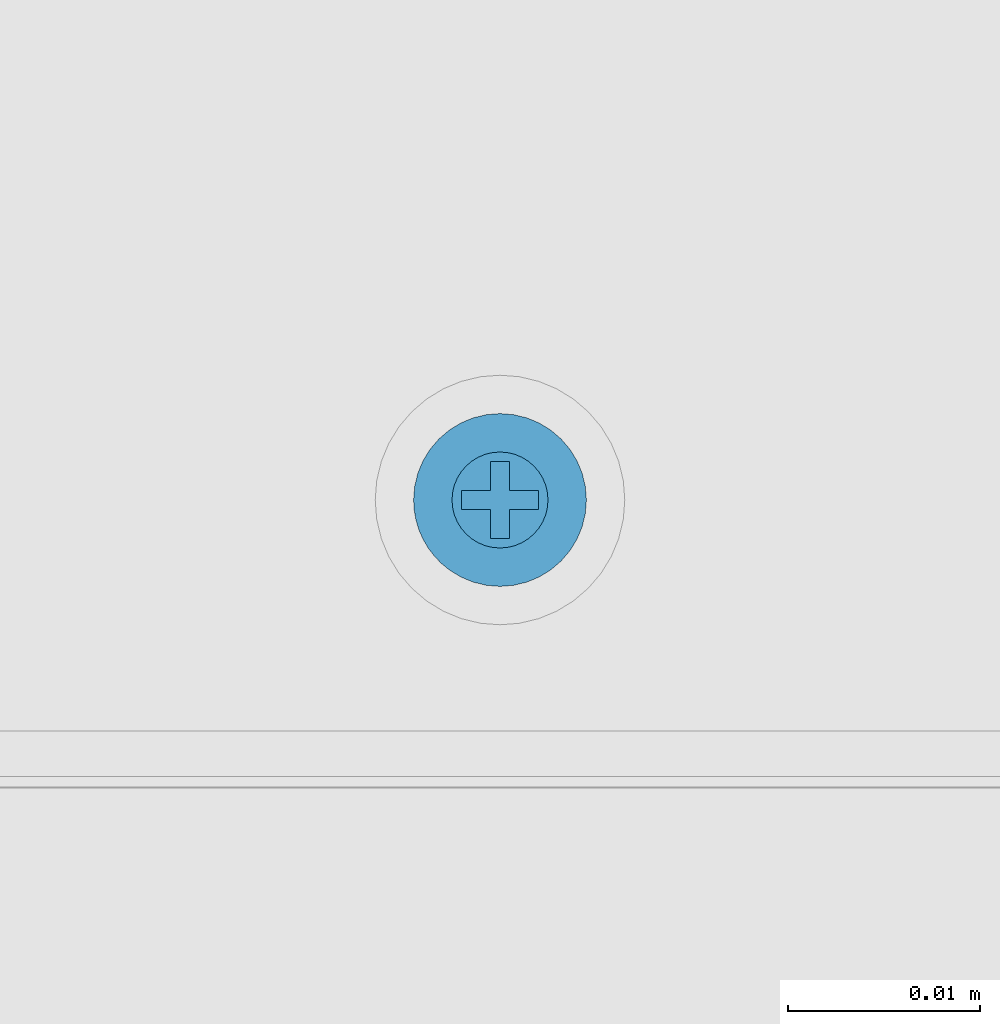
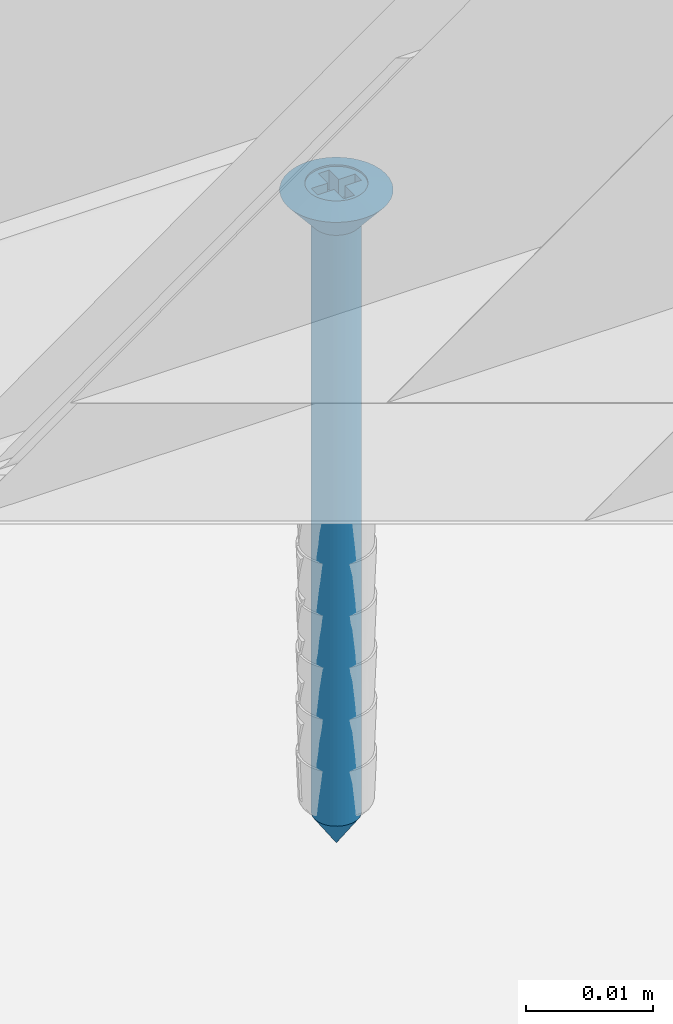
# One storey, part 19 of 47: 1 wall.
"""IFC2X3 building model written with IfcOpenShell, lengths in millimetres."""

from ifc_helpers import new_model, entity, si_unit, converted_unit, direction, frame, origin, origin_with_axes, place, context, project, spatial, faceted_brep, element, save


model = new_model("IFC2X3")

# Units and contexts
model_context = context("Model", 3, precision=1e-05, world=origin(), true_north=direction((0.0, 1.0, 0.0)))
ifc_project = project(units=[si_unit("LENGTHUNIT", "METRE", prefix="MILLI"), si_unit("AREAUNIT", "SQUARE_METRE"), si_unit("VOLUMEUNIT", "CUBIC_METRE"), converted_unit("PLANEANGLEUNIT", "DEGREE", entity("IfcPlaneAngleMeasure", 0.01745), si_unit("PLANEANGLEUNIT", "RADIAN"), dimensions=[0, 0, 0, 0, 0, 0, 0]), si_unit("SOLIDANGLEUNIT", "STERADIAN"), si_unit("MASSUNIT", "GRAM"), si_unit("TIMEUNIT", "SECOND"), si_unit("THERMODYNAMICTEMPERATUREUNIT", "DEGREE_CELSIUS"), si_unit("LUMINOUSINTENSITYUNIT", "LUMEN")], contexts=[model_context])

# Site, building, storey
site_placement = place(None, origin_with_axes())
site = spatial("IfcSite", under=ifc_project, at=site_placement, Name="Default Site", CompositionType="ELEMENT")
building_placement = place(site_placement, origin_with_axes())
building = spatial("IfcBuilding", under=site, at=building_placement, Name="Default Building", CompositionType="ELEMENT")
storey_placement = place(building_placement, origin_with_axes())
storey = spatial("IfcBuildingStorey", under=building, at=storey_placement, Name="Default Building Storey", CompositionType="ELEMENT", Elevation=0.0)

# Wall
wall_placement = place(storey_placement, frame((5924.464255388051, 3419.995432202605, 10.38402578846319), z_axis=(-6.858158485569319e-13, 7.620176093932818e-14, 1.0), x_axis=(-1.64760288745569e-11, 1.0, -7.620176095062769e-14)))
element("IfcWall", 1, at=wall_placement, inside=storey, Name="Kołek rozporowy min. fi 6", context=model_context, shape_type="Brep", body=[
    faceted_brep([(-1438.31414949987, 3453.283223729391, -0.4642567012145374), (-1435.814149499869, 3453.283223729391, -3.464256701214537), (-1435.78952618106, 3452.97035479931, -3.464256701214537), (-1438.258747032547, 3452.57926863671, -0.4642567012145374), (-1435.71626253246, 3452.665189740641, -3.464256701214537), (-1438.093903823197, 3451.892647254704, -0.4642567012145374), (-1435.596162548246, 3452.375242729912, -3.464256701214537), (-1437.823678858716, 3451.240266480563, -0.4642567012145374), (-1435.432183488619, 3452.107653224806, -3.464256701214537), (-1437.454725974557, 3450.638190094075, -0.4642567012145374), (-1435.228363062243, 3451.869010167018, -3.464256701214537), (-1436.996130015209, 3450.101243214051, -0.4642567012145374), (-1434.989720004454, 3451.665189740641, -3.464256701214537), (-1436.459183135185, 3449.642647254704, -0.4642567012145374), (-1434.722130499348, 3451.501210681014, -3.464256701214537), (-1435.857106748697, 3449.273694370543, -0.4642567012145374), (-1434.432183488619, 3451.381110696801, -3.464256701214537), (-1435.204725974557, 3449.003469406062, -0.4642567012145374), (-1434.12701842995, 3451.307847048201, -3.464256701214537), (-1434.51810459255, 3448.838626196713, -0.4642567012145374), (-1433.814149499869, 3451.283223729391, -3.464256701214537), (-1433.814149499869, 3448.783223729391, -0.4642567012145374), (-1433.501280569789, 3451.307847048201, -3.464256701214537), (-1433.110194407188, 3448.838626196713, -0.4642567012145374), (-1433.19611551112, 3451.381110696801, -3.464256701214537), (-1432.423573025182, 3449.003469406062, -0.4642567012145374), (-1432.906168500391, 3451.501210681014, -3.464256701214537), (-1431.771192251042, 3449.273694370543, -0.4642567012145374), (-1432.638578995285, 3451.665189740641, -3.464256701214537), (-1431.169115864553, 3449.642647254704, -0.4642567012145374), (-1432.399935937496, 3451.869010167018, -3.464256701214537), (-1430.63216898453, 3450.101243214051, -0.4642567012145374), (-1432.196115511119, 3452.107653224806, -3.464256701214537), (-1430.173573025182, 3450.638190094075, -0.4642567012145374), (-1432.032136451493, 3452.375242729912, -3.464256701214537), (-1429.804620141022, 3451.240266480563, -0.4642567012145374), (-1431.912036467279, 3452.665189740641, -3.464256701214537), (-1429.534395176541, 3451.892647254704, -0.4642567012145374), (-1431.838772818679, 3453.596092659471, -3.464256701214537), (-1429.369551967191, 3453.987178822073, -0.4642567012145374), (-1429.314149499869, 3453.283223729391, -0.4642567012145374), (-1431.81414949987, 3453.283223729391, -3.464256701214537), (-1429.369551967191, 3452.57926863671, -0.4642567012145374), (-1431.838772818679, 3452.97035479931, -3.464256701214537), (-1431.912036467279, 3453.901257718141, -3.464256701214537), (-1429.534395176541, 3454.673800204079, -0.4642567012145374), (-1432.032136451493, 3454.19120472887, -3.464256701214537), (-1429.804620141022, 3455.326180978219, -0.4642567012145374), (-1432.196115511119, 3454.458794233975, -3.464256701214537), (-1430.173573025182, 3455.928257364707, -0.4642567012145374), (-1432.399935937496, 3454.697437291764, -3.464256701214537), (-1430.63216898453, 3456.465204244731, -0.4642567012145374), (-1432.638578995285, 3454.901257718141, -3.464256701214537), (-1431.169115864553, 3456.923800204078, -0.4642567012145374), (-1432.906168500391, 3455.065236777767, -3.464256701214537), (-1431.771192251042, 3457.292753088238, -0.4642567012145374), (-1433.19611551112, 3455.185336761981, -3.464256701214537), (-1432.423573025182, 3457.562978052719, -0.4642567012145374), (-1433.501280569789, 3455.258600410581, -3.464256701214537), (-1433.110194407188, 3457.727821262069, -0.4642567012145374), (-1433.814149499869, 3455.283223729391, -3.464256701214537), (-1433.814149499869, 3457.783223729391, -0.4642567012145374), (-1434.34306778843, 3457.752031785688, -0.4642567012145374), (-1434.12701842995, 3455.258600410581, -3.464256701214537), (-1434.432183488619, 3455.185336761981, -3.464256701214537), (-1434.864653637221, 3457.658888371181, -0.4642567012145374), (-1435.371676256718, 3457.505084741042, -0.4642567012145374), (-1434.722130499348, 3455.065236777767, -3.464256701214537), (-1435.857106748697, 3457.292753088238, -0.4642567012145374), (-1434.989720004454, 3454.901257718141, -3.464256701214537), (-1435.228363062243, 3454.697437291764, -3.464256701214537), (-1436.314215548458, 3457.024836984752, -0.4642567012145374), (-1436.736665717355, 3456.705050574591, -0.4642567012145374), (-1437.11860079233, 3456.337827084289, -0.4642567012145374), (-1437.454725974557, 3455.928257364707, -0.4642567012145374), (-1435.432183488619, 3454.458794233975, -3.464256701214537), (-1435.596162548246, 3454.19120472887, -3.464256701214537), (-1437.823678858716, 3455.326180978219, -0.4642567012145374), (-1435.71626253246, 3453.901257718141, -3.464256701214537), (-1438.093903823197, 3454.673800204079, -0.4642567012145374), (-1435.78952618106, 3453.596092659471, -3.464256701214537), (-1438.258747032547, 3453.987178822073, -0.4642567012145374), (-1434.205235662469, 3455.752444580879, 0.2007375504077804), (-1433.814149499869, 3455.78322372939, 0.2007375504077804), (-1434.586691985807, 3455.660865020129, 0.2007375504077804), (-1434.949125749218, 3455.510740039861, 0.2007375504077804), (-1435.283612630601, 3455.305766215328, 0.2007375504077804), (-1435.581916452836, 3455.050990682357, 0.2007375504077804), (-1435.836691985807, 3454.752686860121, 0.2007375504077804), (-1436.04166581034, 3454.41819997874, 0.2007375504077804), (-1436.191790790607, 3454.055766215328, 0.2007375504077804), (-1436.283370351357, 3453.674309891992, 0.2007375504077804), (-1436.314149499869, 3453.283223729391, 0.2007375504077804), (-1436.283370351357, 3452.892137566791, 0.2007375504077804), (-1436.191790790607, 3452.510681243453, 0.2007375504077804), (-1436.04166581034, 3452.148247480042, 0.2007375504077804), (-1435.836691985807, 3451.81376059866, 0.200737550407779), (-1435.581916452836, 3451.515456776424, 0.2007375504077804), (-1435.283612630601, 3451.260681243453, 0.2007375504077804), (-1434.949125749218, 3451.05570741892, 0.2007375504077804), (-1434.586691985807, 3450.905582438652, 0.2007375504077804), (-1433.423063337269, 3450.814002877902, 0.2007375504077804), (-1433.814149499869, 3450.783223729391, 0.2007375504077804), (-1434.205235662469, 3450.814002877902, 0.2007375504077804), (-1433.041607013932, 3450.905582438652, 0.2007375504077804), (-1432.67917325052, 3451.05570741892, 0.2007375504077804), (-1432.344686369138, 3451.260681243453, 0.2007375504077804), (-1432.046382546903, 3451.515456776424, 0.2007375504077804), (-1431.791607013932, 3451.81376059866, 0.2007375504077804), (-1431.586633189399, 3452.148247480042, 0.2007375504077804), (-1431.436508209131, 3452.510681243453, 0.2007375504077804), (-1431.344928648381, 3452.892137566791, 0.2007375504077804), (-1431.314149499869, 3453.283223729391, 0.2007375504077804), (-1431.344928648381, 3453.674309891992, 0.2007375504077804), (-1431.436508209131, 3454.055766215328, 0.2007375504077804), (-1431.586633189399, 3454.41819997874, 0.2007375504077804), (-1431.791607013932, 3454.752686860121, 0.2007375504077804), (-1432.046382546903, 3455.050990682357, 0.2007375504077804), (-1432.344686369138, 3455.305766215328, 0.2007375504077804), (-1432.67917325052, 3455.510740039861, 0.2007375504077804), (-1433.041607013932, 3455.660865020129, 0.2007375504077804), (-1433.423063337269, 3455.752444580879, 0.2007375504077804), (-1433.814149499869, 3453.283223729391, -63.46425670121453), (-1435.789526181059, 3452.97035479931, -60.46425670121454), (-1435.814149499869, 3453.283223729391, -60.46425670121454), (-1435.716262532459, 3452.665189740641, -60.46425670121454), (-1435.596162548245, 3452.375242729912, -60.46425670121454), (-1435.432183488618, 3452.107653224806, -60.46425670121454), (-1435.228363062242, 3451.869010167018, -60.46425670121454), (-1434.989720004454, 3451.665189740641, -60.46425670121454), (-1434.722130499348, 3451.501210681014, -60.46425670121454), (-1434.432183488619, 3451.381110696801, -60.46425670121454), (-1434.127018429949, 3451.307847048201, -60.46425670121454), (-1433.814149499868, 3451.283223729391, -60.46425670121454), (-1433.501280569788, 3451.307847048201, -60.46425670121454), (-1433.196115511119, 3451.381110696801, -60.46425670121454), (-1432.90616850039, 3451.501210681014, -60.46425670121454), (-1432.638578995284, 3451.665189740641, -60.46425670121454), (-1432.399935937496, 3451.869010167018, -60.46425670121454), (-1432.196115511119, 3452.107653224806, -60.46425670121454), (-1432.032136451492, 3452.375242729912, -60.46425670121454), (-1431.912036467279, 3452.665189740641, -60.46425670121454), (-1431.838772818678, 3452.97035479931, -60.46425670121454), (-1431.814149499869, 3453.283223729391, -60.46425670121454), (-1431.838772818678, 3453.596092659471, -60.46425670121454), (-1431.912036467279, 3453.901257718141, -60.46425670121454), (-1432.032136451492, 3454.19120472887, -60.46425670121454), (-1432.196115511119, 3454.458794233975, -60.46425670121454), (-1432.399935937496, 3454.697437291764, -60.46425670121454), (-1432.638578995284, 3454.901257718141, -60.46425670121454), (-1432.90616850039, 3455.065236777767, -60.46425670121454), (-1433.196115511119, 3455.185336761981, -60.46425670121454), (-1433.501280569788, 3455.258600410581, -60.46425670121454), (-1433.814149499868, 3455.283223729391, -60.46425670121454), (-1434.127018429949, 3455.258600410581, -60.46425670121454), (-1434.432183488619, 3455.185336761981, -60.46425670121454), (-1434.722130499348, 3455.065236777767, -60.46425670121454), (-1434.989720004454, 3454.901257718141, -60.46425670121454), (-1435.228363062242, 3454.697437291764, -60.46425670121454), (-1435.432183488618, 3454.458794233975, -60.46425670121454), (-1435.596162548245, 3454.19120472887, -60.46425670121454), (-1435.716262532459, 3453.901257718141, -60.46425670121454), (-1435.789526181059, 3453.596092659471, -60.46425670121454), (-1435.814149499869, 3453.783223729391, 0.04999999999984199), (-1436.04166581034, 3454.41819997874, 0.04999999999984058), (-1436.191790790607, 3454.055766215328, 0.04999999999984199), (-1435.814149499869, 3452.783223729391, 0.04999999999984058), (-1434.314149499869, 3453.783223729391, 0.04999999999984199), (-1434.314149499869, 3455.28322372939, 0.04999999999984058), (-1433.314149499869, 3455.28322372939, 0.04999999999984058), (-1433.314149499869, 3453.783223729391, 0.04999999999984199), (-1431.814149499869, 3453.783223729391, 0.04999999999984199), (-1431.814149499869, 3452.783223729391, 0.04999999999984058), (-1433.314149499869, 3452.783223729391, 0.04999999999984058), (-1433.314149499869, 3451.283223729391, 0.04999999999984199), (-1434.314149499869, 3451.283223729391, 0.04999999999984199), (-1434.314149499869, 3452.783223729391, 0.04999999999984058), (-1436.283370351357, 3453.674309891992, 0.04999999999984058), (-1436.314149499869, 3453.283223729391, 0.04999999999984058), (-1436.283370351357, 3452.892137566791, 0.04999999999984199), (-1436.191790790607, 3452.510681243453, 0.04999999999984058), (-1436.04166581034, 3452.148247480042, 0.04999999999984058), (-1435.836691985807, 3451.81376059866, 0.04999999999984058), (-1435.581916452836, 3451.515456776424, 0.04999999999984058), (-1435.283612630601, 3451.260681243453, 0.04999999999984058), (-1434.949125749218, 3451.05570741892, 0.04999999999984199), (-1434.586691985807, 3450.905582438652, 0.04999999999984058), (-1434.205235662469, 3450.814002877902, 0.04999999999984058), (-1433.814149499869, 3450.783223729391, 0.04999999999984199), (-1433.423063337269, 3450.814002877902, 0.04999999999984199), (-1433.041607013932, 3450.905582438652, 0.04999999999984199), (-1432.67917325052, 3451.05570741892, 0.04999999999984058), (-1432.344686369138, 3451.260681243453, 0.04999999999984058), (-1432.046382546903, 3451.515456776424, 0.04999999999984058), (-1431.791607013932, 3451.81376059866, 0.04999999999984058), (-1431.586633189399, 3452.148247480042, 0.04999999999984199), (-1431.436508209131, 3452.510681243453, 0.04999999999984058), (-1431.344928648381, 3452.892137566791, 0.04999999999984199), (-1431.314149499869, 3453.283223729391, 0.04999999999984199), (-1431.344928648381, 3453.674309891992, 0.04999999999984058), (-1431.436508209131, 3454.055766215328, 0.04999999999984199), (-1431.586633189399, 3454.41819997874, 0.04999999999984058), (-1431.791607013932, 3454.752686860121, 0.04999999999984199), (-1432.046382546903, 3455.050990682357, 0.04999999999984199), (-1432.344686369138, 3455.305766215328, 0.04999999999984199), (-1432.67917325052, 3455.510740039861, 0.04999999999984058), (-1433.041607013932, 3455.660865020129, 0.04999999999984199), (-1433.423063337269, 3455.752444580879, 0.04999999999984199), (-1433.814149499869, 3455.78322372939, 0.04999999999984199), (-1434.205235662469, 3455.752444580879, 0.04999999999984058), (-1434.586691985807, 3455.660865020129, 0.04999999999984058), (-1434.949125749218, 3455.510740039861, 0.04999999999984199), (-1435.283612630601, 3455.305766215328, 0.04999999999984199), (-1435.581916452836, 3455.050990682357, 0.04999999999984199), (-1435.836691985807, 3454.752686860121, 0.04999999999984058), (-1434.314149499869, 3452.783223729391, -1.79926244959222), (-1434.314149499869, 3451.283223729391, -1.799262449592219), (-1433.314149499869, 3451.283223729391, -1.799262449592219), (-1433.314149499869, 3452.783223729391, -1.79926244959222), (-1431.81414949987, 3452.783223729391, -1.79926244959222), (-1431.81414949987, 3453.783223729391, -1.799262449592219), (-1433.314149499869, 3453.783223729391, -1.799262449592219), (-1433.314149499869, 3455.28322372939, -1.79926244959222), (-1434.314149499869, 3455.28322372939, -1.79926244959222), (-1434.314149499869, 3453.783223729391, -1.799262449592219), (-1435.814149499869, 3453.783223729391, -1.799262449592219), (-1435.814149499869, 3452.783223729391, -1.79926244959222)], [[[0, 1, 2, 3]], [[4, 5, 3, 2]], [[6, 7, 5, 4]], [[7, 6, 8, 9]], [[10, 11, 9, 8]], [[11, 10, 12, 13]], [[14, 15, 13, 12]], [[16, 17, 15, 14]], [[17, 16, 18, 19]], [[20, 21, 19, 18]], [[21, 20, 22, 23]], [[24, 25, 23, 22]], [[26, 27, 25, 24]], [[27, 26, 28, 29]], [[30, 31, 29, 28]], [[31, 30, 32, 33]], [[34, 35, 33, 32]], [[36, 37, 35, 34]], [[38, 39, 40, 41]], [[41, 40, 42, 43]], [[37, 36, 43, 42]], [[44, 45, 39, 38]], [[46, 47, 45, 44]], [[47, 46, 48, 49]], [[50, 51, 49, 48]], [[51, 50, 52, 53]], [[54, 55, 53, 52]], [[56, 57, 55, 54]], [[57, 56, 58, 59]], [[60, 61, 59, 58]], [[62, 61, 63]], [[61, 60, 63]], [[63, 64, 62]], [[64, 65, 62]], [[66, 65, 64]], [[64, 67, 66]], [[67, 68, 66]], [[69, 70, 71]], [[70, 72, 71]], [[71, 68, 69]], [[68, 67, 69]], [[70, 73, 72]], [[74, 73, 75]], [[73, 70, 75]], [[76, 77, 74, 75]], [[78, 79, 77, 76]], [[79, 78, 80, 81]], [[1, 0, 81, 80]], [[82, 83, 62]], [[83, 61, 62]], [[62, 65, 82]], [[65, 84, 82]], [[66, 68, 84]], [[68, 85, 84]], [[84, 65, 66]], [[86, 85, 71]], [[85, 68, 71]], [[72, 73, 87]], [[87, 86, 72]], [[86, 71, 72]], [[88, 87, 74]], [[87, 73, 74]], [[77, 89, 88, 74]], [[79, 90, 89, 77]], [[90, 79, 81, 91]], [[0, 92, 91, 81]], [[92, 0, 3, 93]], [[5, 94, 93, 3]], [[7, 95, 94, 5]], [[95, 7, 9, 96]], [[11, 97, 96, 9]], [[97, 11, 13, 98]], [[15, 99, 98, 13]], [[17, 100, 99, 15]], [[23, 101, 102, 21]], [[21, 102, 103, 19]], [[100, 17, 19, 103]], [[25, 104, 101, 23]], [[27, 105, 104, 25]], [[105, 27, 29, 106]], [[31, 107, 106, 29]], [[107, 31, 33, 108]], [[35, 109, 108, 33]], [[37, 110, 109, 35]], [[110, 37, 42, 111]], [[40, 112, 111, 42]], [[112, 40, 39, 113]], [[45, 114, 113, 39]], [[47, 115, 114, 45]], [[115, 47, 49, 116]], [[51, 117, 116, 49]], [[117, 51, 53, 118]], [[55, 119, 118, 53]], [[57, 120, 119, 55]], [[120, 57, 59, 121]], [[61, 83, 121, 59]], [[122, 123, 124]], [[122, 125, 123]], [[122, 126, 125]], [[127, 126, 122]], [[122, 128, 127]], [[129, 128, 122]], [[122, 130, 129]], [[122, 131, 130]], [[132, 131, 122]], [[122, 133, 132]], [[134, 133, 122]], [[122, 135, 134]], [[122, 136, 135]], [[137, 136, 122]], [[122, 138, 137]], [[139, 138, 122]], [[122, 140, 139]], [[122, 141, 140]], [[142, 141, 122]], [[122, 143, 142]], [[144, 143, 122]], [[122, 145, 144]], [[122, 146, 145]], [[147, 146, 122]], [[122, 148, 147]], [[149, 148, 122]], [[122, 150, 149]], [[122, 151, 150]], [[152, 151, 122]], [[122, 153, 152]], [[154, 153, 122]], [[122, 155, 154]], [[122, 156, 155]], [[157, 156, 122]], [[122, 158, 157]], [[159, 158, 122]], [[122, 160, 159]], [[122, 161, 160]], [[162, 161, 122]], [[124, 162, 122]], [[1, 124, 123, 2]], [[125, 4, 2, 123]], [[126, 6, 4, 125]], [[6, 126, 127, 8]], [[128, 10, 8, 127]], [[10, 128, 129, 12]], [[130, 14, 12, 129]], [[131, 16, 14, 130]], [[16, 131, 132, 18]], [[133, 20, 18, 132]], [[20, 133, 134, 22]], [[135, 24, 22, 134]], [[136, 26, 24, 135]], [[26, 136, 137, 28]], [[138, 30, 28, 137]], [[30, 138, 139, 32]], [[140, 34, 32, 139]], [[141, 36, 34, 140]], [[144, 38, 41, 143]], [[143, 41, 43, 142]], [[36, 141, 142, 43]], [[145, 44, 38, 144]], [[146, 46, 44, 145]], [[46, 146, 147, 48]], [[148, 50, 48, 147]], [[50, 148, 149, 52]], [[150, 54, 52, 149]], [[151, 56, 54, 150]], [[56, 151, 152, 58]], [[153, 60, 58, 152]], [[60, 153, 154, 63]], [[155, 64, 63, 154]], [[156, 67, 64, 155]], [[67, 156, 157, 69]], [[158, 70, 69, 157]], [[70, 158, 159, 75]], [[160, 76, 75, 159]], [[161, 78, 76, 160]], [[78, 161, 162, 80]], [[124, 1, 80, 162]], [[163, 164, 165, 166]], [[163, 167, 168, 169, 170, 171, 172, 173, 174, 175, 176, 166, 165, 177, 178, 179, 180, 181, 182, 183, 184, 185, 186, 187, 188, 189, 190, 191, 192, 193, 194, 195, 196, 197, 198, 199, 200, 201, 202, 203, 204, 205, 206, 207, 208, 209, 210, 211, 212, 213, 214, 164]], [[199, 198, 112, 113]], [[113, 114, 200, 199]], [[114, 115, 201, 200]], [[202, 201, 115, 116]], [[116, 117, 203, 202]], [[204, 203, 117, 118]], [[118, 119, 205, 204]], [[119, 120, 206, 205]], [[207, 206, 120, 121]], [[121, 83, 208, 207]], [[209, 208, 83, 82]], [[82, 84, 210, 209]], [[84, 85, 211, 210]], [[212, 211, 85, 86]], [[86, 87, 213, 212]], [[214, 213, 87, 88]], [[88, 89, 164, 214]], [[89, 90, 165, 164]], [[92, 93, 179, 178]], [[91, 92, 178, 177]], [[177, 165, 90, 91]], [[93, 94, 180, 179]], [[94, 95, 181, 180]], [[182, 181, 95, 96]], [[96, 97, 183, 182]], [[184, 183, 97, 98]], [[98, 99, 185, 184]], [[99, 100, 186, 185]], [[187, 186, 100, 103]], [[103, 102, 188, 187]], [[189, 188, 102, 101]], [[101, 104, 190, 189]], [[104, 105, 191, 190]], [[192, 191, 105, 106]], [[106, 107, 193, 192]], [[194, 193, 107, 108]], [[108, 109, 195, 194]], [[109, 110, 196, 195]], [[197, 196, 110, 111]], [[111, 112, 198, 197]], [[215, 216, 217, 218, 219, 220, 221, 222, 223, 224, 225, 226]], [[216, 175, 174, 217]], [[215, 176, 175, 216]], [[226, 166, 176, 215]], [[225, 163, 166, 226]], [[224, 167, 163, 225]], [[223, 168, 167, 224]], [[222, 169, 168, 223]], [[221, 170, 169, 222]], [[220, 171, 170, 221]], [[219, 172, 171, 220]], [[218, 173, 172, 219]], [[217, 174, 173, 218]]]),
])

save(model, "model.ifc")
